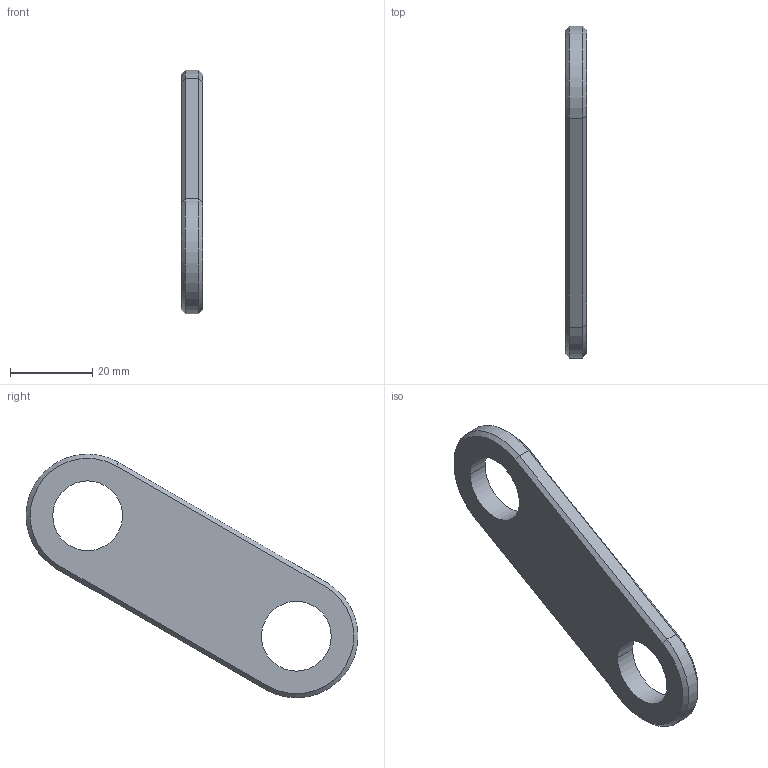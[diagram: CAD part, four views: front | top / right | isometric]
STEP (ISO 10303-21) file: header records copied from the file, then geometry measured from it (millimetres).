
FILE_DESCRIPTION(('CATIA V5 STEP Exchange','CAx-IF Rec.Pracs.--- Model Styling and Organization---1.2---2011-12-15'),'2;1');
FILE_NAME('X:\Projects\INTERIORS\VEMINA\IL-96-026_027\2.WORK_DATA\01.USERS\dmitriy.khorkov\02 OUT DATA\Пак 5_Листовые детали\STP\V.9626.7522.810.051-04.stp','2025-07-03T04:50:41+00:00',('none'),('none'),'CATIA Version 5-6 Release 2013 SP6 HF12','CATIA V5 STEP AP214','none');
FILE_SCHEMA(('AUTOMOTIVE_DESIGN { 1 0 10303 214 1 1 1 1 }'));
Length unit declared in the file: millimetre
Products named in the file (1): V.9626.7522.810.051-04
Bounding box: 5.2 x 80.89 x 59.38 mm (x, y, z)
Volume: 10271.6 mm3; surface area: 5437.2 mm2
Topology: 1 solids, 1 shells, 18 faces, 40 edges, 24 vertices
Faces by surface type: plane 8, cylinder 6, cone 4
Entity records: 499 total; most frequent: CARTESIAN_POINT 81, ORIENTED_EDGE 80, DIRECTION 72, EDGE_CURVE 40, AXIS2_PLACEMENT_3D 33, VECTOR 24, LINE 24, VERTEX_POINT 24
